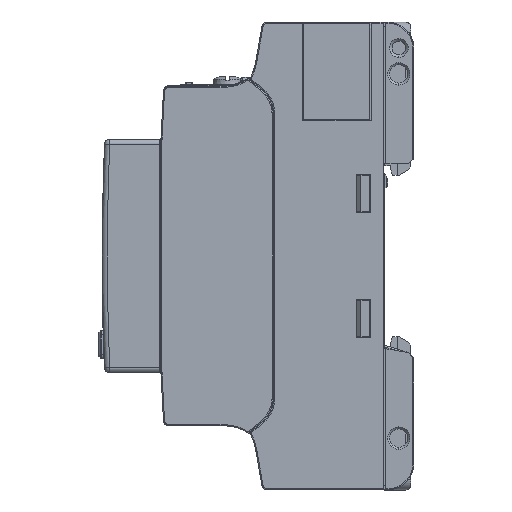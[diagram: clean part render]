
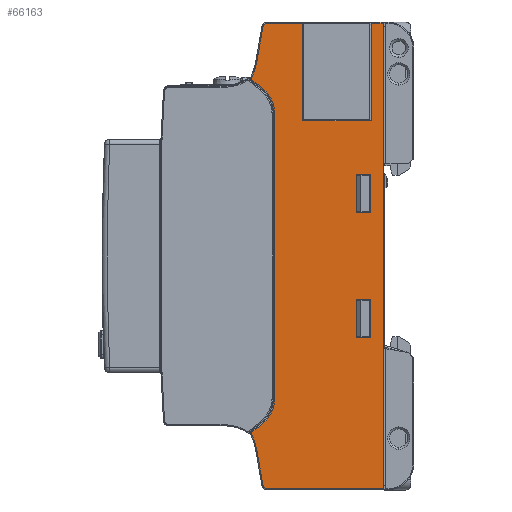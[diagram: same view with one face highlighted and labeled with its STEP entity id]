
A CAD part, left-side view. The second image highlights one B-rep face of the part: STEP entity #66163.
In plain terms, the highlighted planar face has unit normal (-1, 0, 0).
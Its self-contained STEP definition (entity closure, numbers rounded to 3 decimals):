
#1164=DIRECTION('',(0.,0.,-1.));
#1165=VECTOR('',#1164,89.6);
#1166=CARTESIAN_POINT('',(0.,5.9,-0.2));
#1167=LINE('',#1166,#1165);
#3604=DIRECTION('',(0.,0.,-1.));
#3605=VECTOR('',#3604,18.8);
#3606=CARTESIAN_POINT('',(0.,8.2,-0.2));
#3607=LINE('',#3606,#3605);
#3608=DIRECTION('',(0.,1.,0.));
#3609=VECTOR('',#3608,2.3);
#3610=CARTESIAN_POINT('',(0.,5.9,-0.2));
#3611=LINE('',#3610,#3609);
#3612=DIRECTION('',(0.,-1.,0.));
#3613=VECTOR('',#3612,22.361);
#3614=CARTESIAN_POINT('',(0.,28.261,-89.8));
#3615=LINE('',#3614,#3613);
#3616=CARTESIAN_POINT('',(0.,28.261,-89.));
#3617=DIRECTION('',(-1.,0.,0.));
#3618=DIRECTION('',(0.,0.985,-0.174));
#3619=AXIS2_PLACEMENT_3D('',#3616,#3617,#3618);
#3621=DIRECTION('',(0.,-0.174,-0.985));
#3622=VECTOR('',#3621,6.963);
#3623=CARTESIAN_POINT('',(0.,30.258,-82.282));
#3624=LINE('',#3623,#3622);
#3625=CARTESIAN_POINT('',(0.,40.303,-84.053));
#3626=DIRECTION('',(1.,0.,0.));
#3627=DIRECTION('',(0.,-0.886,0.464));
#3628=AXIS2_PLACEMENT_3D('',#3625,#3626,#3627);
#3630=CARTESIAN_POINT('',(0.,31.,-79.184));
#3631=DIRECTION('',(-1.,0.,0.));
#3632=DIRECTION('',(0.,0.643,0.766));
#3633=AXIS2_PLACEMENT_3D('',#3630,#3631,#3632);
#3635=DIRECTION('',(0.,0.766,-0.643));
#3636=VECTOR('',#3635,2.937);
#3637=CARTESIAN_POINT('',(0.,28.943,-77.067));
#3638=LINE('',#3637,#3636);
#3639=CARTESIAN_POINT('',(0.,32.8,-72.47));
#3640=DIRECTION('',(1.,0.,0.));
#3641=DIRECTION('',(0.,-1.,0.));
#3642=AXIS2_PLACEMENT_3D('',#3639,#3640,#3641);
#3644=DIRECTION('',(0.,0.,-1.));
#3645=VECTOR('',#3644,54.941);
#3646=CARTESIAN_POINT('',(0.,26.8,-17.53));
#3647=LINE('',#3646,#3645);
#3648=CARTESIAN_POINT('',(0.,32.8,-17.53));
#3649=DIRECTION('',(1.,0.,0.));
#3650=DIRECTION('',(0.,-0.643,0.766));
#3651=AXIS2_PLACEMENT_3D('',#3648,#3649,#3650);
#3653=DIRECTION('',(0.,-0.766,-0.643));
#3654=VECTOR('',#3653,2.937);
#3655=CARTESIAN_POINT('',(0.,31.193,-11.046));
#3656=LINE('',#3655,#3654);
#3657=CARTESIAN_POINT('',(0.,31.,-10.816));
#3658=DIRECTION('',(-1.,0.,0.));
#3659=DIRECTION('',(0.,0.886,0.464));
#3660=AXIS2_PLACEMENT_3D('',#3657,#3658,#3659);
#3662=CARTESIAN_POINT('',(0.,40.303,-5.947));
#3663=DIRECTION('',(1.,0.,0.));
#3664=DIRECTION('',(0.,-0.985,-0.174));
#3665=AXIS2_PLACEMENT_3D('',#3662,#3663,#3664);
#3667=DIRECTION('',(0.,0.174,-0.985));
#3668=VECTOR('',#3667,6.963);
#3669=CARTESIAN_POINT('',(0.,29.049,-0.861));
#3670=LINE('',#3669,#3668);
#3671=CARTESIAN_POINT('',(0.,28.261,-1.));
#3672=DIRECTION('',(-1.,0.,0.));
#3673=DIRECTION('',(0.,0.,1.));
#3674=AXIS2_PLACEMENT_3D('',#3671,#3672,#3673);
#3676=DIRECTION('',(0.,1.,0.));
#3677=VECTOR('',#3676,6.861);
#3678=CARTESIAN_POINT('',(0.,21.4,-0.2));
#3679=LINE('',#3678,#3677);
#3680=DIRECTION('',(0.,0.,-1.));
#3681=VECTOR('',#3680,18.8);
#3682=CARTESIAN_POINT('',(0.,21.4,-0.2));
#3683=LINE('',#3682,#3681);
#3684=DIRECTION('',(0.,-1.,0.));
#3685=VECTOR('',#3684,13.2);
#3686=CARTESIAN_POINT('',(0.,21.4,-19.));
#3687=LINE('',#3686,#3685);
#3688=DIRECTION('',(0.,1.,0.));
#3689=VECTOR('',#3688,2.8);
#3690=CARTESIAN_POINT('',(0.,8.3,-29.3));
#3691=LINE('',#3690,#3689);
#3692=DIRECTION('',(0.,0.,-1.));
#3693=VECTOR('',#3692,7.4);
#3694=CARTESIAN_POINT('',(0.,11.1,-29.3));
#3695=LINE('',#3694,#3693);
#3696=DIRECTION('',(0.,-1.,0.));
#3697=VECTOR('',#3696,2.8);
#3698=CARTESIAN_POINT('',(0.,11.1,-36.7));
#3699=LINE('',#3698,#3697);
#3700=DIRECTION('',(0.,0.,1.));
#3701=VECTOR('',#3700,7.4);
#3702=CARTESIAN_POINT('',(0.,8.3,-36.7));
#3703=LINE('',#3702,#3701);
#3704=DIRECTION('',(0.,1.,0.));
#3705=VECTOR('',#3704,2.8);
#3706=CARTESIAN_POINT('',(0.,8.3,-53.3));
#3707=LINE('',#3706,#3705);
#3708=DIRECTION('',(0.,0.,-1.));
#3709=VECTOR('',#3708,7.4);
#3710=CARTESIAN_POINT('',(0.,11.1,-53.3));
#3711=LINE('',#3710,#3709);
#3712=DIRECTION('',(0.,-1.,0.));
#3713=VECTOR('',#3712,2.8);
#3714=CARTESIAN_POINT('',(0.,11.1,-60.7));
#3715=LINE('',#3714,#3713);
#3716=DIRECTION('',(0.,0.,1.));
#3717=VECTOR('',#3716,7.4);
#3718=CARTESIAN_POINT('',(0.,8.3,-60.7));
#3719=LINE('',#3718,#3717);
#51861=CARTESIAN_POINT('',(0.,8.2,-0.2));
#51862=CARTESIAN_POINT('',(0.,8.2,-19.));
#51863=VERTEX_POINT('',#51861);
#51864=VERTEX_POINT('',#51862);
#51865=CARTESIAN_POINT('',(0.,21.4,-0.2));
#51866=CARTESIAN_POINT('',(0.,21.4,-19.));
#51867=VERTEX_POINT('',#51865);
#51868=VERTEX_POINT('',#51866);
#51915=CARTESIAN_POINT('',(0.,8.3,-29.3));
#51916=CARTESIAN_POINT('',(0.,11.1,-29.3));
#51917=VERTEX_POINT('',#51915);
#51918=VERTEX_POINT('',#51916);
#51919=CARTESIAN_POINT('',(0.,11.1,-36.7));
#51920=VERTEX_POINT('',#51919);
#51921=CARTESIAN_POINT('',(0.,8.3,-36.7));
#51922=VERTEX_POINT('',#51921);
#51923=CARTESIAN_POINT('',(0.,8.3,-53.3));
#51924=CARTESIAN_POINT('',(0.,11.1,-53.3));
#51925=VERTEX_POINT('',#51923);
#51926=VERTEX_POINT('',#51924);
#51927=CARTESIAN_POINT('',(0.,11.1,-60.7));
#51928=VERTEX_POINT('',#51927);
#51929=CARTESIAN_POINT('',(0.,8.3,-60.7));
#51930=VERTEX_POINT('',#51929);
#51931=CARTESIAN_POINT('',(0.,5.9,-89.8));
#51933=VERTEX_POINT('',#51931);
#51935=CARTESIAN_POINT('',(0.,28.261,-89.8));
#51936=VERTEX_POINT('',#51935);
#51937=CARTESIAN_POINT('',(0.,29.049,
-89.139));
#51938=VERTEX_POINT('',#51937);
#51939=CARTESIAN_POINT('',(0.,30.258,-82.282));
#51940=VERTEX_POINT('',#51939);
#51941=CARTESIAN_POINT('',(0.,31.266,-79.323));
#51942=VERTEX_POINT('',#51941);
#51943=CARTESIAN_POINT('',(0.,31.193,-78.954));
#51944=VERTEX_POINT('',#51943);
#51945=CARTESIAN_POINT('',(0.,28.943,-77.067));
#51946=VERTEX_POINT('',#51945);
#51949=CARTESIAN_POINT('',(0.,26.8,-72.47));
#51950=VERTEX_POINT('',#51949);
#51951=CARTESIAN_POINT('',(0.,26.8,-17.53));
#51952=VERTEX_POINT('',#51951);
#51953=CARTESIAN_POINT('',(0.,28.943,-12.933));
#51954=VERTEX_POINT('',#51953);
#51955=CARTESIAN_POINT('',(0.,31.193,-11.046));
#51956=VERTEX_POINT('',#51955);
#51957=CARTESIAN_POINT('',(0.,31.266,-10.677));
#51958=VERTEX_POINT('',#51957);
#51959=CARTESIAN_POINT('',(0.,30.258,-7.718));
#51960=VERTEX_POINT('',#51959);
#51963=CARTESIAN_POINT('',(0.,29.049,-0.861));
#51964=VERTEX_POINT('',#51963);
#51965=CARTESIAN_POINT('',(0.,28.261,-0.2));
#51966=VERTEX_POINT('',#51965);
#51968=CARTESIAN_POINT('',(0.,5.9,-0.2));
#51970=VERTEX_POINT('',#51968);
#66100=CARTESIAN_POINT('',(0.,9.9,-45.));
#66101=DIRECTION('',(-1.,0.,0.));
#66102=DIRECTION('',(0.,0.,1.));
#66103=AXIS2_PLACEMENT_3D('',#66100,#66101,#66102);
#66104=PLANE('',#66103);
#66105=ORIENTED_EDGE('',*,*,#65870,.F.);
#66107=ORIENTED_EDGE('',*,*,#66106,.F.);
#66108=ORIENTED_EDGE('',*,*,#63049,.T.);
#66110=ORIENTED_EDGE('',*,*,#66109,.F.);
#66112=ORIENTED_EDGE('',*,*,#66111,.F.);
#66114=ORIENTED_EDGE('',*,*,#66113,.F.);
#66116=ORIENTED_EDGE('',*,*,#66115,.F.);
#66118=ORIENTED_EDGE('',*,*,#66117,.F.);
#66120=ORIENTED_EDGE('',*,*,#66119,.F.);
#66122=ORIENTED_EDGE('',*,*,#66121,.F.);
#66124=ORIENTED_EDGE('',*,*,#66123,.F.);
#66126=ORIENTED_EDGE('',*,*,#66125,.F.);
#66128=ORIENTED_EDGE('',*,*,#66127,.F.);
#66130=ORIENTED_EDGE('',*,*,#66129,.F.);
#66132=ORIENTED_EDGE('',*,*,#66131,.F.);
#66134=ORIENTED_EDGE('',*,*,#66133,.F.);
#66136=ORIENTED_EDGE('',*,*,#66135,.F.);
#66137=ORIENTED_EDGE('',*,*,#66092,.F.);
#66138=ORIENTED_EDGE('',*,*,#65716,.T.);
#66140=ORIENTED_EDGE('',*,*,#66139,.T.);
#66141=EDGE_LOOP('',(#66105,#66107,#66108,#66110,#66112,#66114,#66116,#66118,
#66120,#66122,#66124,#66126,#66128,#66130,#66132,#66134,#66136,#66137,#66138,
#66140));
#66142=FACE_OUTER_BOUND('',#66141,.F.);
#66144=ORIENTED_EDGE('',*,*,#66143,.T.);
#66146=ORIENTED_EDGE('',*,*,#66145,.T.);
#66148=ORIENTED_EDGE('',*,*,#66147,.T.);
#66150=ORIENTED_EDGE('',*,*,#66149,.T.);
#66151=EDGE_LOOP('',(#66144,#66146,#66148,#66150));
#66152=FACE_BOUND('',#66151,.F.);
#66154=ORIENTED_EDGE('',*,*,#66153,.T.);
#66156=ORIENTED_EDGE('',*,*,#66155,.T.);
#66158=ORIENTED_EDGE('',*,*,#66157,.T.);
#66160=ORIENTED_EDGE('',*,*,#66159,.T.);
#66161=EDGE_LOOP('',(#66154,#66156,#66158,#66160));
#66162=FACE_BOUND('',#66161,.F.);
#3620=CIRCLE('',#3619,0.8);
#3629=CIRCLE('',#3628,10.2);
#3634=CIRCLE('',#3633,0.3);
#3643=CIRCLE('',#3642,6.);
#3652=CIRCLE('',#3651,6.);
#3661=CIRCLE('',#3660,0.3);
#3666=CIRCLE('',#3665,10.2);
#3675=CIRCLE('',#3674,0.8);
#63049=EDGE_CURVE('',#51970,#51933,#1167,.T.);
#65716=EDGE_CURVE('',#51867,#51868,#3683,.T.);
#65870=EDGE_CURVE('',#51863,#51864,#3607,.T.);
#66092=EDGE_CURVE('',#51867,#51966,#3679,.T.);
#66106=EDGE_CURVE('',#51970,#51863,#3611,.T.);
#66109=EDGE_CURVE('',#51936,#51933,#3615,.T.);
#66111=EDGE_CURVE('',#51938,#51936,#3620,.T.);
#66113=EDGE_CURVE('',#51940,#51938,#3624,.T.);
#66115=EDGE_CURVE('',#51942,#51940,#3629,.T.);
#66117=EDGE_CURVE('',#51944,#51942,#3634,.T.);
#66119=EDGE_CURVE('',#51946,#51944,#3638,.T.);
#66121=EDGE_CURVE('',#51950,#51946,#3643,.T.);
#66123=EDGE_CURVE('',#51952,#51950,#3647,.T.);
#66125=EDGE_CURVE('',#51954,#51952,#3652,.T.);
#66127=EDGE_CURVE('',#51956,#51954,#3656,.T.);
#66129=EDGE_CURVE('',#51958,#51956,#3661,.T.);
#66131=EDGE_CURVE('',#51960,#51958,#3666,.T.);
#66133=EDGE_CURVE('',#51964,#51960,#3670,.T.);
#66135=EDGE_CURVE('',#51966,#51964,#3675,.T.);
#66139=EDGE_CURVE('',#51868,#51864,#3687,.T.);
#66143=EDGE_CURVE('',#51917,#51918,#3691,.T.);
#66145=EDGE_CURVE('',#51918,#51920,#3695,.T.);
#66147=EDGE_CURVE('',#51920,#51922,#3699,.T.);
#66149=EDGE_CURVE('',#51922,#51917,#3703,.T.);
#66153=EDGE_CURVE('',#51925,#51926,#3707,.T.);
#66155=EDGE_CURVE('',#51926,#51928,#3711,.T.);
#66157=EDGE_CURVE('',#51928,#51930,#3715,.T.);
#66159=EDGE_CURVE('',#51930,#51925,#3719,.T.);
#66163=ADVANCED_FACE('',(#66142,#66152,#66162),#66104,.T.);
